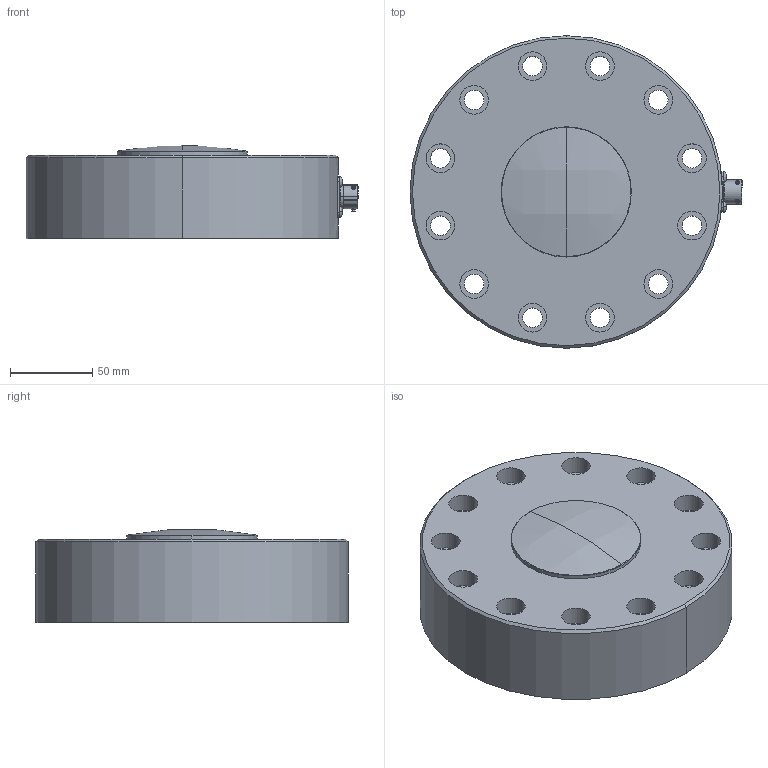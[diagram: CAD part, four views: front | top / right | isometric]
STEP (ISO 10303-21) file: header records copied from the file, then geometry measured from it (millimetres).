
FILE_DESCRIPTION (( 'STEP AP203' ), '1' );
FILE_NAME ('Interface 1231-450KN.STEP', '2011-06-07T14:50:00', ( ' ' ), ( '' ), 'SwSTEP 2.0', 'SolidWorks 2002349', '' );
FILE_SCHEMA (( 'CONFIG_CONTROL_DESIGN' ));
Length unit declared in the file: inch
Products named in the file (1): Interface 1231-450KN
Bounding box: 202.36 x 190.45 x 56.72 mm (x, y, z)
Volume: 1370493.5 mm3; surface area: 112311.4 mm2
Topology: 1 solids, 1 shells, 247 faces, 578 edges, 376 vertices
Faces by surface type: cylinder 116, plane 89, bspline 27, cone 15
Entity records: 8061 total; most frequent: CARTESIAN_POINT 2392, DIRECTION 1162, ORIENTED_EDGE 1156, EDGE_CURVE 578, AXIS2_PLACEMENT_3D 470, VERTEX_POINT 376, EDGE_LOOP 314, CIRCLE 249
